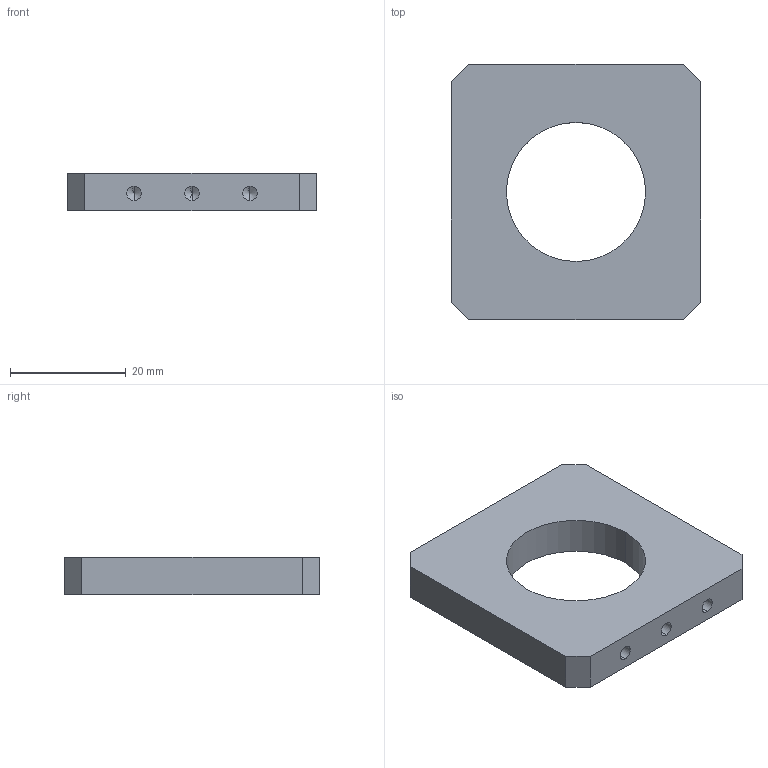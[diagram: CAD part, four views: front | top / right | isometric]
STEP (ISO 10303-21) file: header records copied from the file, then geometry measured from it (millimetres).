
FILE_DESCRIPTION (( 'STEP AP203' ), '1' );
FILE_NAME ('FB-010-08B賑啣A.STEP', '2025-02-10T08:04:36', ( 'Windows 蚚誧' ), ( 'Organization' ), 'SwSTEP 2.0', 'SolidWorks 2020', '' );
FILE_SCHEMA (( 'CONFIG_CONTROL_DESIGN' ));
Length unit declared in the file: millimetre
Products named in the file (1): FB-010-08B賑啣A
Bounding box: 43 x 44 x 6.5 mm (x, y, z)
Volume: 9012.2 mm3; surface area: 4777 mm2
Topology: 1 solids, 1 shells, 36 faces, 90 edges, 50 vertices
Faces by surface type: cylinder 14, cone 12, plane 10
Entity records: 1063 total; most frequent: DIRECTION 180, CARTESIAN_POINT 165, ORIENTED_EDGE 156, EDGE_CURVE 78, AXIS2_PLACEMENT_3D 65, LINE 50, VECTOR 50, VERTEX_POINT 50
